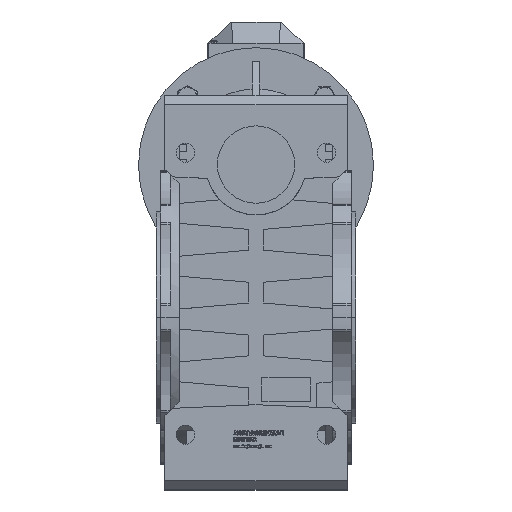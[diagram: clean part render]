
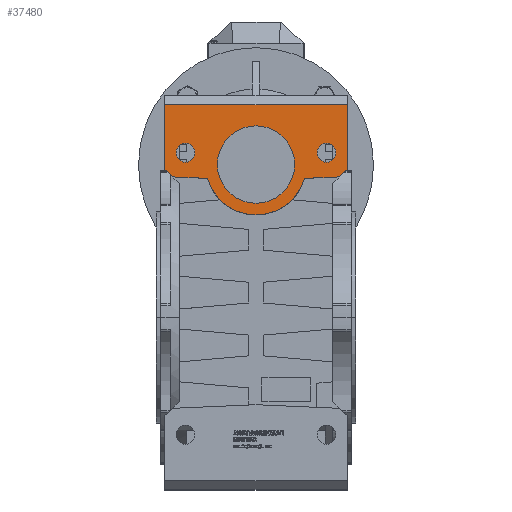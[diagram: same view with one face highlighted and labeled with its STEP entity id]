
A CAD part, top view. The second image highlights one B-rep face of the part: STEP entity #37480.
In plain terms, the highlighted planar face has unit normal (0, 0, 1).
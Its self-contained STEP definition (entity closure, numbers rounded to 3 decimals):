
#255 = EDGE_LOOP ( 'NONE', ( #56116, #78332 ) ) ;
#406 = DIRECTION ( 'NONE',  ( 0., 0., 1. ) ) ;
#1379 = EDGE_CURVE ( 'NONE', #62032, #99360, #26501, .T. ) ;
#1812 = EDGE_CURVE ( 'NONE', #64880, #13089, #88663, .T. ) ;
#2755 = ORIENTED_EDGE ( 'NONE', *, *, #14374, .F. ) ;
#3272 = CARTESIAN_POINT ( 'NONE',  ( -77.5, 119.784, 146.5 ) ) ;
#4247 = ORIENTED_EDGE ( 'NONE', *, *, #37638, .F. ) ;
#5369 = ORIENTED_EDGE ( 'NONE', *, *, #37398, .F. ) ;
#5488 = LINE ( 'NONE', #61202, #27509 ) ;
#8880 = VERTEX_POINT ( 'NONE', #72160 ) ;
#9692 = DIRECTION ( 'NONE',  ( 0., -1., 0. ) ) ;
#10395 = VECTOR ( 'NONE', #33377, 1000. ) ;
#10813 = DIRECTION ( 'NONE',  ( 0., 1., 0. ) ) ;
#12056 = LINE ( 'NONE', #48031, #58699 ) ;
#12257 = CARTESIAN_POINT ( 'NONE',  ( 60., 140., 146.5 ) ) ;
#12369 = CIRCLE ( 'NONE', #49374, 8. ) ;
#13089 = VERTEX_POINT ( 'NONE', #91030 ) ;
#14374 = EDGE_CURVE ( 'NONE', #40001, #32878, #80853, .T. ) ;
#16198 = EDGE_LOOP ( 'NONE', ( #42840, #2755, #60913, #70457, #89483, #56358, #4247, #98333 ) ) ;
#17060 = EDGE_CURVE ( 'NONE', #23625, #30489, #12369, .T. ) ;
#17270 = CARTESIAN_POINT ( 'NONE',  ( 77.5, 125.984, 146.5 ) ) ;
#17749 = DIRECTION ( 'NONE',  ( 0., 0., -1. ) ) ;
#17968 = EDGE_LOOP ( 'NONE', ( #46383, #54641 ) ) ;
#18795 = PLANE ( 'NONE',  #26363 ) ;
#21803 = EDGE_CURVE ( 'NONE', #99360, #40001, #66828, .T. ) ;
#22721 = CARTESIAN_POINT ( 'NONE',  ( -41.272, 118.202, 146.5 ) ) ;
#23625 = VERTEX_POINT ( 'NONE', #106435 ) ;
#24162 = DIRECTION ( 'NONE',  ( 1., 0., 0. ) ) ;
#25757 = EDGE_CURVE ( 'NONE', #62032, #97877, #102488, .T. ) ;
#25905 = CARTESIAN_POINT ( 'NONE',  ( -77.5, 181., 146.5 ) ) ;
#26363 = AXIS2_PLACEMENT_3D ( 'NONE', #43721, #17749, #10813 ) ;
#26501 = LINE ( 'NONE', #66943, #56357 ) ;
#27509 = VECTOR ( 'NONE', #76794, 1000. ) ;
#28557 = DIRECTION ( 'NONE',  ( 1., 0., 0. ) ) ;
#28887 = CIRCLE ( 'NONE', #75709, 32.925 ) ;
#30489 = VERTEX_POINT ( 'NONE', #36398 ) ;
#31593 = VECTOR ( 'NONE', #78606, 1000. ) ;
#31987 = CARTESIAN_POINT ( 'NONE',  ( 77.5, 119.784, 146.5 ) ) ;
#32878 = VERTEX_POINT ( 'NONE', #67964 ) ;
#33296 = AXIS2_PLACEMENT_3D ( 'NONE', #12257, #95572, #28557 ) ;
#33377 = DIRECTION ( 'NONE',  ( -1., 0., 0. ) ) ;
#34449 = AXIS2_PLACEMENT_3D ( 'NONE', #52650, #101619, #93572 ) ;
#36398 = CARTESIAN_POINT ( 'NONE',  ( -68., 140., 146.5 ) ) ;
#37398 = EDGE_CURVE ( 'NONE', #56619, #83444, #97753, .T. ) ;
#37480 = ADVANCED_FACE ( 'NONE', ( #99015, #57467, #52269, #79511 ), #18795, .F. ) ;
#37638 = EDGE_CURVE ( 'NONE', #13089, #8880, #12056, .T. ) ;
#39082 = CIRCLE ( 'NONE', #46767, 8. ) ;
#40001 = VERTEX_POINT ( 'NONE', #57304 ) ;
#40270 = DIRECTION ( 'NONE',  ( 1., 0., 0. ) ) ;
#40313 = DIRECTION ( 'NONE',  ( -0.999, -0.044, 0. ) ) ;
#42840 = ORIENTED_EDGE ( 'NONE', *, *, #91843, .T. ) ;
#43230 = EDGE_CURVE ( 'NONE', #83919, #70032, #45547, .T. ) ;
#43721 = CARTESIAN_POINT ( 'NONE',  ( 77.5, 188.5, 146.5 ) ) ;
#43918 = EDGE_CURVE ( 'NONE', #97877, #8880, #5488, .T. ) ;
#45547 = CIRCLE ( 'NONE', #34449, 32.925 ) ;
#46383 = ORIENTED_EDGE ( 'NONE', *, *, #51329, .F. ) ;
#46767 = AXIS2_PLACEMENT_3D ( 'NONE', #98654, #406, #40270 ) ;
#48031 = CARTESIAN_POINT ( 'NONE',  ( -77.5, 125.984, 146.5 ) ) ;
#48635 = CARTESIAN_POINT ( 'NONE',  ( 77.5, 181., 146.5 ) ) ;
#49374 = AXIS2_PLACEMENT_3D ( 'NONE', #65108, #65451, #24162 ) ;
#50039 = CARTESIAN_POINT ( 'NONE',  ( 77.5, 181., 146.5 ) ) ;
#51329 = EDGE_CURVE ( 'NONE', #70032, #83919, #28887, .T. ) ;
#51742 = CARTESIAN_POINT ( 'NONE',  ( 60., 140., 146.5 ) ) ;
#52269 = FACE_BOUND ( 'NONE', #255, .T. ) ;
#52650 = CARTESIAN_POINT ( 'NONE',  ( 0., 130., 146.5 ) ) ;
#53946 = CIRCLE ( 'NONE', #63624, 42.925 ) ;
#54641 = ORIENTED_EDGE ( 'NONE', *, *, #43230, .F. ) ;
#56116 = ORIENTED_EDGE ( 'NONE', *, *, #87755, .F. ) ;
#56357 = VECTOR ( 'NONE', #9692, 1000. ) ;
#56358 = ORIENTED_EDGE ( 'NONE', *, *, #43918, .T. ) ;
#56452 = VECTOR ( 'NONE', #71133, 1000. ) ;
#56619 = VERTEX_POINT ( 'NONE', #89600 ) ;
#57304 = CARTESIAN_POINT ( 'NONE',  ( 71.017, 119.501, 146.5 ) ) ;
#57467 = FACE_OUTER_BOUND ( 'NONE', #16198, .T. ) ;
#57650 = CARTESIAN_POINT ( 'NONE',  ( -32.925, 130., 146.5 ) ) ;
#58699 = VECTOR ( 'NONE', #97377, 1000. ) ;
#60913 = ORIENTED_EDGE ( 'NONE', *, *, #21803, .F. ) ;
#61202 = CARTESIAN_POINT ( 'NONE',  ( -77.5, 188.5, 146.5 ) ) ;
#62032 = VERTEX_POINT ( 'NONE', #48635 ) ;
#63183 = AXIS2_PLACEMENT_3D ( 'NONE', #51742, #76748, #76397 ) ;
#63624 = AXIS2_PLACEMENT_3D ( 'NONE', #95887, #78471, #104649 ) ;
#64256 = CARTESIAN_POINT ( 'NONE',  ( 77.5, 125.984, 146.5 ) ) ;
#64880 = VERTEX_POINT ( 'NONE', #22721 ) ;
#65108 = CARTESIAN_POINT ( 'NONE',  ( -60., 140., 146.5 ) ) ;
#65451 = DIRECTION ( 'NONE',  ( 0., 0., 1. ) ) ;
#66828 = LINE ( 'NONE', #64256, #56452 ) ;
#66943 = CARTESIAN_POINT ( 'NONE',  ( 77.5, 188.5, 146.5 ) ) ;
#67964 = CARTESIAN_POINT ( 'NONE',  ( 41.272, 118.202, 146.5 ) ) ;
#70032 = VERTEX_POINT ( 'NONE', #103203 ) ;
#70457 = ORIENTED_EDGE ( 'NONE', *, *, #1379, .F. ) ;
#71133 = DIRECTION ( 'NONE',  ( -0.707, -0.707, 0. ) ) ;
#72160 = CARTESIAN_POINT ( 'NONE',  ( -77.5, 125.984, 146.5 ) ) ;
#75709 = AXIS2_PLACEMENT_3D ( 'NONE', #87568, #95945, #77819 ) ;
#76397 = DIRECTION ( 'NONE',  ( 1., 0., 0. ) ) ;
#76748 = DIRECTION ( 'NONE',  ( 0., 0., 1. ) ) ;
#76794 = DIRECTION ( 'NONE',  ( 0., -1., 0. ) ) ;
#77819 = DIRECTION ( 'NONE',  ( 1., 0., 0. ) ) ;
#78332 = ORIENTED_EDGE ( 'NONE', *, *, #17060, .F. ) ;
#78365 = VECTOR ( 'NONE', #40313, 1000. ) ;
#78471 = DIRECTION ( 'NONE',  ( 0., 0., 1. ) ) ;
#78606 = DIRECTION ( 'NONE',  ( -0.999, 0.044, 0. ) ) ;
#79511 = FACE_BOUND ( 'NONE', #102878, .T. ) ;
#80853 = LINE ( 'NONE', #31987, #78365 ) ;
#83237 = ORIENTED_EDGE ( 'NONE', *, *, #106001, .F. ) ;
#83444 = VERTEX_POINT ( 'NONE', #84547 ) ;
#83919 = VERTEX_POINT ( 'NONE', #57650 ) ;
#84547 = CARTESIAN_POINT ( 'NONE',  ( 68., 140., 146.5 ) ) ;
#87568 = CARTESIAN_POINT ( 'NONE',  ( 0., 130., 146.5 ) ) ;
#87755 = EDGE_CURVE ( 'NONE', #30489, #23625, #39082, .T. ) ;
#88663 = LINE ( 'NONE', #3272, #31593 ) ;
#89483 = ORIENTED_EDGE ( 'NONE', *, *, #25757, .T. ) ;
#89600 = CARTESIAN_POINT ( 'NONE',  ( 52., 140., 146.5 ) ) ;
#91030 = CARTESIAN_POINT ( 'NONE',  ( -71.017, 119.501, 146.5 ) ) ;
#91843 = EDGE_CURVE ( 'NONE', #64880, #32878, #53946, .T. ) ;
#93572 = DIRECTION ( 'NONE',  ( 1., 0., 0. ) ) ;
#94252 = CIRCLE ( 'NONE', #33296, 8. ) ;
#95572 = DIRECTION ( 'NONE',  ( 0., 0., 1. ) ) ;
#95887 = CARTESIAN_POINT ( 'NONE',  ( 0., 130., 146.5 ) ) ;
#95945 = DIRECTION ( 'NONE',  ( 0., 0., 1. ) ) ;
#97377 = DIRECTION ( 'NONE',  ( -0.707, 0.707, 0. ) ) ;
#97753 = CIRCLE ( 'NONE', #63183, 8. ) ;
#97877 = VERTEX_POINT ( 'NONE', #25905 ) ;
#98333 = ORIENTED_EDGE ( 'NONE', *, *, #1812, .F. ) ;
#98654 = CARTESIAN_POINT ( 'NONE',  ( -60., 140., 146.5 ) ) ;
#99015 = FACE_BOUND ( 'NONE', #17968, .T. ) ;
#99360 = VERTEX_POINT ( 'NONE', #17270 ) ;
#101619 = DIRECTION ( 'NONE',  ( 0., 0., 1. ) ) ;
#102488 = LINE ( 'NONE', #50039, #10395 ) ;
#102878 = EDGE_LOOP ( 'NONE', ( #5369, #83237 ) ) ;
#103203 = CARTESIAN_POINT ( 'NONE',  ( 32.925, 130., 146.5 ) ) ;
#104649 = DIRECTION ( 'NONE',  ( 1., 0., 0. ) ) ;
#106001 = EDGE_CURVE ( 'NONE', #83444, #56619, #94252, .T. ) ;
#106435 = CARTESIAN_POINT ( 'NONE',  ( -52., 140., 146.5 ) ) ;
